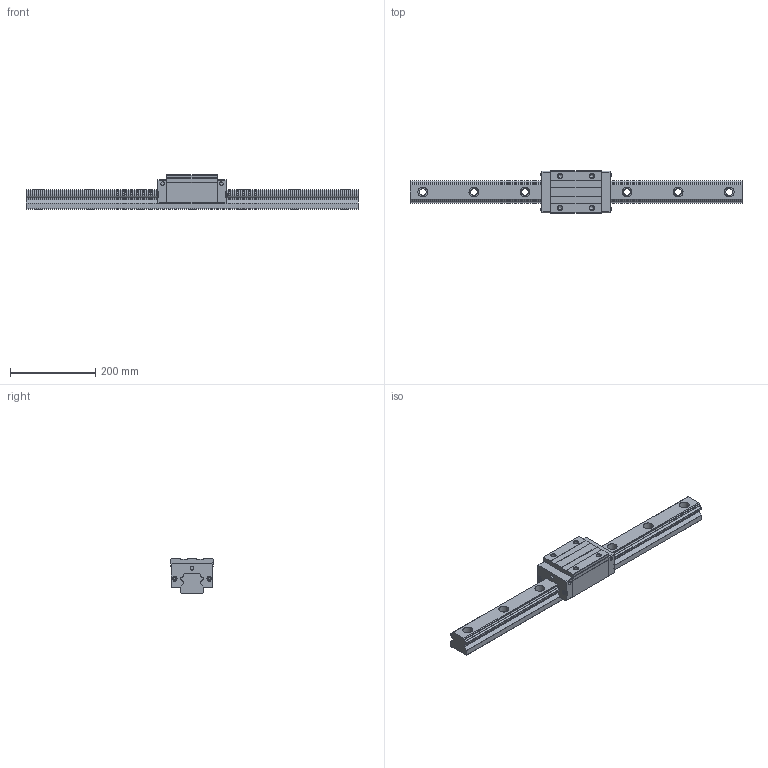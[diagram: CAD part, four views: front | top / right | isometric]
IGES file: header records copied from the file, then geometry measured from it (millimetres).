
Start section: START RECORD GO HERE.
Global section: file name: SBG55_SL.igs; native system: IBM CATIA IGES - CATIA Version 5 Release 16 ; preprocessor: CATIA Version 5 Release 16 ; author: mycom; organization: RD03; date: 20070228.150501; units: millimetre
Bounding box: 780 x 100 x 80 mm (x, y, z)
Surface area: 272076 mm2 (no closed solid volume)
Topology: 0 solids, 0 shells, 308 faces, 1654 edges, 1646 vertices
Faces by surface type: revolution 178, plane 130
